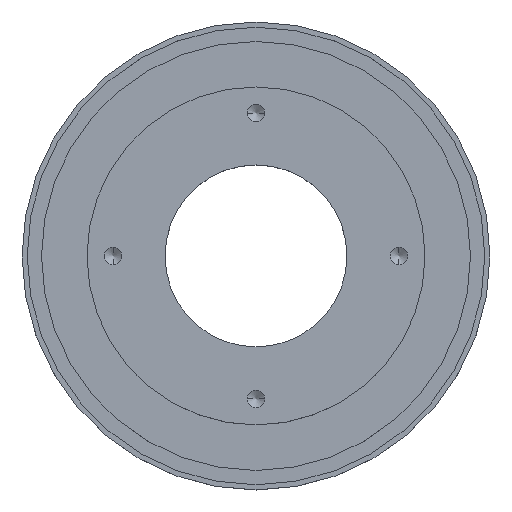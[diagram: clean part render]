
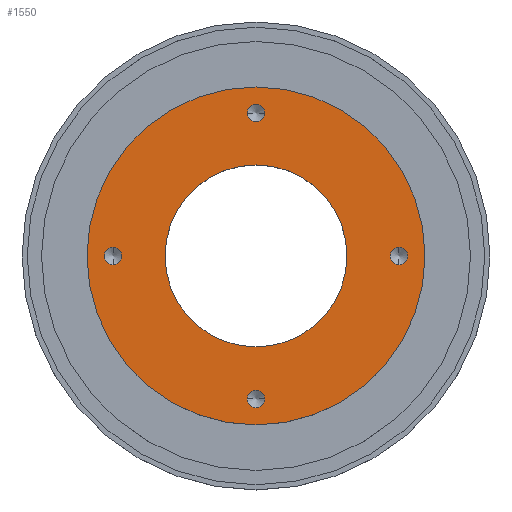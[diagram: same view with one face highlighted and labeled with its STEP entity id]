
A CAD part, top view. The second image highlights one B-rep face of the part: STEP entity #1550.
In plain terms, the highlighted planar face has unit normal (0, 0, 1).
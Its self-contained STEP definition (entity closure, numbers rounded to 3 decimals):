
#242=CARTESIAN_POINT('',(-65.0,0.,22.0));
#243=VERTEX_POINT('',#242);
#259=CARTESIAN_POINT('',(65.0,0.,22.0));
#260=VERTEX_POINT('',#259);
#267=CARTESIAN_POINT('',(0.0,0.0,22.0));
#268=DIRECTION('',(0.0,0.0,-1.0));
#269=DIRECTION('',(-1.0,0.0,0.0));
#270=AXIS2_PLACEMENT_3D('',#267,#268,#269);
#271=CIRCLE('',#270,65.0);
#272=EDGE_CURVE('',#260,#243,#271,.T.);
#284=CARTESIAN_POINT('',(-35.0,0.,22.0));
#285=VERTEX_POINT('',#284);
#301=CARTESIAN_POINT('',(35.0,0.,22.0));
#302=VERTEX_POINT('',#301);
#309=CARTESIAN_POINT('',(0.0,0.0,22.0));
#310=DIRECTION('',(0.0,0.0,-1.0));
#311=DIRECTION('',(-1.0,0.0,0.0));
#312=AXIS2_PLACEMENT_3D('',#309,#310,#311);
#313=CIRCLE('',#312,35.0);
#314=EDGE_CURVE('',#285,#302,#313,.T.);
#577=CARTESIAN_POINT('',(3.324,55.0,22.0));
#578=VERTEX_POINT('',#577);
#594=CARTESIAN_POINT('',(-3.324,55.0,22.0));
#595=VERTEX_POINT('',#594);
#602=CARTESIAN_POINT('',(0.0,55.0,22.0));
#603=DIRECTION('',(0.0,0.0,-1.0));
#604=DIRECTION('',(1.0,0.0,0.0));
#605=AXIS2_PLACEMENT_3D('',#602,#603,#604);
#606=CIRCLE('',#605,3.324);
#607=EDGE_CURVE('',#578,#595,#606,.T.);
#690=CARTESIAN_POINT('',(55.0,-3.323,22.0));
#691=VERTEX_POINT('',#690);
#707=CARTESIAN_POINT('',(55.0,3.324,22.0));
#708=VERTEX_POINT('',#707);
#715=CARTESIAN_POINT('',(55.0,0.,22.0));
#716=DIRECTION('',(0.0,0.0,-1.0));
#717=DIRECTION('',(0.0,-1.0,0.0));
#718=AXIS2_PLACEMENT_3D('',#715,#716,#717);
#719=CIRCLE('',#718,3.324);
#720=EDGE_CURVE('',#691,#708,#719,.T.);
#803=CARTESIAN_POINT('',(-3.323,-55.0,22.0));
#804=VERTEX_POINT('',#803);
#820=CARTESIAN_POINT('',(3.324,-55.0,22.0));
#821=VERTEX_POINT('',#820);
#828=CARTESIAN_POINT('',(0.,-55.0,22.0));
#829=DIRECTION('',(0.0,0.0,-1.0));
#830=DIRECTION('',(-1.0,0.0,0.0));
#831=AXIS2_PLACEMENT_3D('',#828,#829,#830);
#832=CIRCLE('',#831,3.324);
#833=EDGE_CURVE('',#804,#821,#832,.T.);
#916=CARTESIAN_POINT('',(-55.0,3.323,22.0));
#917=VERTEX_POINT('',#916);
#933=CARTESIAN_POINT('',(-55.0,-3.324,22.0));
#934=VERTEX_POINT('',#933);
#941=CARTESIAN_POINT('',(-55.0,0.,22.0));
#942=DIRECTION('',(0.0,0.0,-1.0));
#943=DIRECTION('',(0.0,1.0,0.0));
#944=AXIS2_PLACEMENT_3D('',#941,#942,#943);
#945=CIRCLE('',#944,3.324);
#946=EDGE_CURVE('',#917,#934,#945,.T.);
#1060=CARTESIAN_POINT('',(-55.0,0.,22.0));
#1061=DIRECTION('',(0.0,0.0,-1.0));
#1062=DIRECTION('',(0.0,1.0,0.0));
#1063=AXIS2_PLACEMENT_3D('',#1060,#1061,#1062);
#1064=CIRCLE('',#1063,3.324);
#1065=EDGE_CURVE('',#934,#917,#1064,.T.);
#1131=CARTESIAN_POINT('',(0.,-55.0,22.0));
#1132=DIRECTION('',(0.0,0.0,-1.0));
#1133=DIRECTION('',(-1.0,0.0,0.0));
#1134=AXIS2_PLACEMENT_3D('',#1131,#1132,#1133);
#1135=CIRCLE('',#1134,3.324);
#1136=EDGE_CURVE('',#821,#804,#1135,.T.);
#1202=CARTESIAN_POINT('',(55.0,0.,22.0));
#1203=DIRECTION('',(0.0,0.0,-1.0));
#1204=DIRECTION('',(0.0,-1.0,0.0));
#1205=AXIS2_PLACEMENT_3D('',#1202,#1203,#1204);
#1206=CIRCLE('',#1205,3.324);
#1207=EDGE_CURVE('',#708,#691,#1206,.T.);
#1273=CARTESIAN_POINT('',(0.0,55.0,22.0));
#1274=DIRECTION('',(0.0,0.0,-1.0));
#1275=DIRECTION('',(1.0,0.0,0.0));
#1276=AXIS2_PLACEMENT_3D('',#1273,#1274,#1275);
#1277=CIRCLE('',#1276,3.324);
#1278=EDGE_CURVE('',#595,#578,#1277,.T.);
#1479=CARTESIAN_POINT('',(0.0,0.0,22.0));
#1480=DIRECTION('',(0.0,0.0,-1.0));
#1481=DIRECTION('',(-1.0,0.0,0.0));
#1482=AXIS2_PLACEMENT_3D('',#1479,#1480,#1481);
#1483=CIRCLE('',#1482,35.0);
#1484=EDGE_CURVE('',#302,#285,#1483,.T.);
#1503=CARTESIAN_POINT('',(0.0,0.0,22.0));
#1504=DIRECTION('',(0.0,0.0,-1.0));
#1505=DIRECTION('',(-1.0,0.0,0.0));
#1506=AXIS2_PLACEMENT_3D('',#1503,#1504,#1505);
#1507=CIRCLE('',#1506,65.0);
#1508=EDGE_CURVE('',#243,#260,#1507,.T.);
#1521=CARTESIAN_POINT('',(5.909,0.,22.0));
#1522=DIRECTION('',(0.0,0.0,1.0));
#1523=DIRECTION('',(1.0,0.0,0.0));
#1524=AXIS2_PLACEMENT_3D('',#1521,#1522,#1523);
#1525=PLANE('',#1524);
#1526=ORIENTED_EDGE('',*,*,#272,.F.);
#1527=ORIENTED_EDGE('',*,*,#1508,.F.);
#1528=EDGE_LOOP('',(#1526,#1527));
#1529=FACE_OUTER_BOUND('',#1528,.T.);
#1530=ORIENTED_EDGE('',*,*,#946,.T.);
#1531=ORIENTED_EDGE('',*,*,#1065,.T.);
#1532=EDGE_LOOP('',(#1530,#1531));
#1533=FACE_BOUND('',#1532,.T.);
#1534=ORIENTED_EDGE('',*,*,#833,.T.);
#1535=ORIENTED_EDGE('',*,*,#1136,.T.);
#1536=EDGE_LOOP('',(#1534,#1535));
#1537=FACE_BOUND('',#1536,.T.);
#1538=ORIENTED_EDGE('',*,*,#720,.T.);
#1539=ORIENTED_EDGE('',*,*,#1207,.T.);
#1540=EDGE_LOOP('',(#1538,#1539));
#1541=FACE_BOUND('',#1540,.T.);
#1542=ORIENTED_EDGE('',*,*,#607,.T.);
#1543=ORIENTED_EDGE('',*,*,#1278,.T.);
#1544=EDGE_LOOP('',(#1542,#1543));
#1545=FACE_BOUND('',#1544,.T.);
#1546=ORIENTED_EDGE('',*,*,#1484,.T.);
#1547=ORIENTED_EDGE('',*,*,#314,.T.);
#1548=EDGE_LOOP('',(#1546,#1547));
#1549=FACE_BOUND('',#1548,.T.);
#1550=ADVANCED_FACE('',(#1529,#1533,#1537,#1541,#1545,#1549),#1525,.T.);
